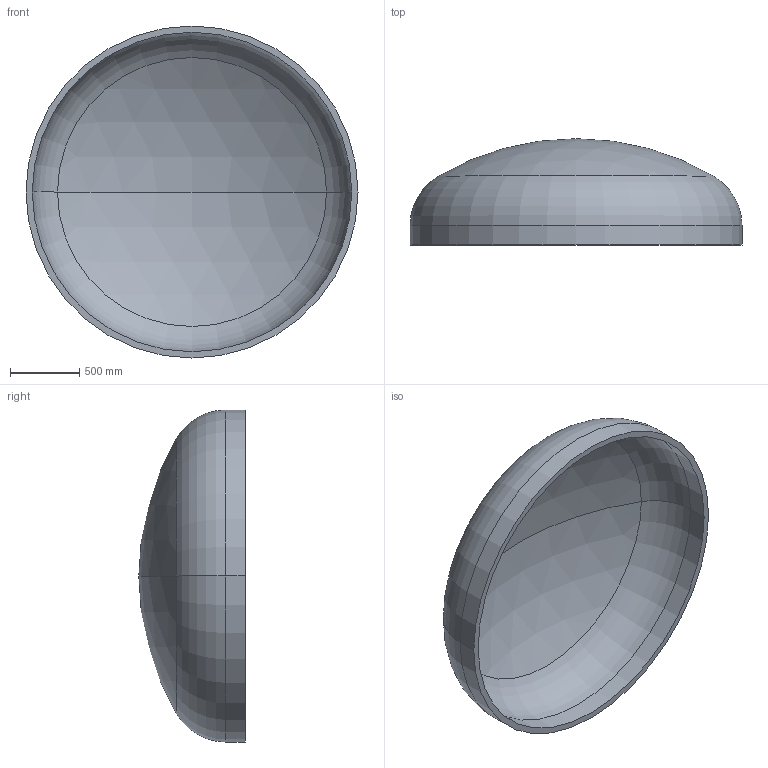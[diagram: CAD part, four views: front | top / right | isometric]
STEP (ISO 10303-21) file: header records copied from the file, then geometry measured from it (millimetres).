
FILE_DESCRIPTION (( 'STEP AP203' ), '1' );
FILE_NAME ('DIN 28013 Korbbogenform_-_Boden DIN 28013 - 2400 x 140 - I - s=45.step', '2016-07-01T15:23:58', ( '' ), ( '' ), 'SwSTEP 2.0', 'SolidWorks 2013', '' );
FILE_SCHEMA (( 'CONFIG_CONTROL_DESIGN' ));
Length unit declared in the file: millimetre
Products named in the file (1): DIN 28013 Korbbogenform_-_Boden DIN 28013 - 2400 x 140 - I - s=45
Bounding box: 2400 x 768.48 x 2400 mm (x, y, z)
Volume: 321737607.8 mm3; surface area: 14636616 mm2
Topology: 1 solids, 1 shells, 13 faces, 24 edges, 14 vertices
Faces by surface type: torus 4, cylinder 4, sphere 4, plane 1
Entity records: 407 total; most frequent: DIRECTION 72, CARTESIAN_POINT 52, ORIENTED_EDGE 48, AXIS2_PLACEMENT_3D 34, EDGE_CURVE 24, CIRCLE 20, VERTEX_POINT 14, EDGE_LOOP 14
